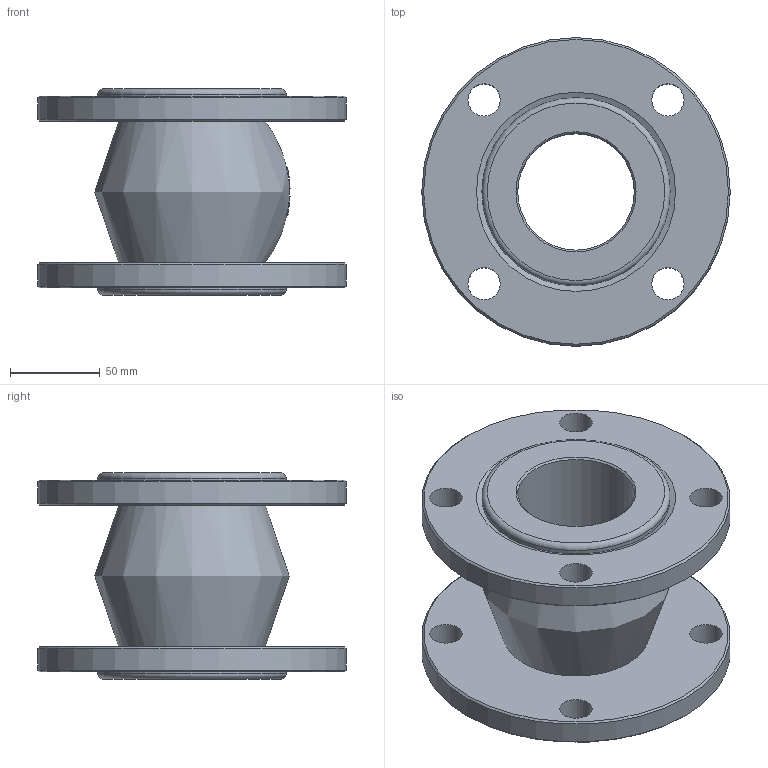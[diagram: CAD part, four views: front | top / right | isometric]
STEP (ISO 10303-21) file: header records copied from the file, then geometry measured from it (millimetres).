
FILE_DESCRIPTION(/* description */ ('D140-02174','CAx-IF Rec.Pracs.---Representation and Presentation of Product Manufacturing Information (PMI)---4.0---2014-10-13'),/* implementation_level */ '2;1');
FILE_NAME(/* name */ '',/* time_stamp */ '2026-04-30T11:18:56+03:00',/* author */ ('DN.RU'),/* organization */ ('DN.RU'),/* preprocessor_version */ 'ST-DEVELOPER v20',/* originating_system */ 'Autodesk Inventor 2025',/* authorisation */ '');
FILE_SCHEMA (('AP242_MANAGED_MODEL_BASED_3D_ENGINEERING_MIM_LF { 1 0 10303 442 1 1 4 }'));
Length unit declared in the file: millimetre
Products named in the file (1): CR-E25-F
Bounding box: 172 x 172 x 115 mm (x, y, z)
Volume: 928578.1 mm3; surface area: 144810 mm2
Topology: 1 solids, 1 shells, 99 faces, 264 edges, 174 vertices
Faces by surface type: plane 43, bspline 34, cylinder 13, cone 7, torus 2
Full cylindrical faces by diameter (mm): 18 x8, 65 x1, 105 x2, 172 x2
Entity records: 4185 total; most frequent: CARTESIAN_POINT 1566, ORIENTED_EDGE 528, DIRECTION 478, EDGE_CURVE 264, AXIS2_PLACEMENT_3D 199, VERTEX_POINT 174, EDGE_LOOP 124, CIRCLE 120
